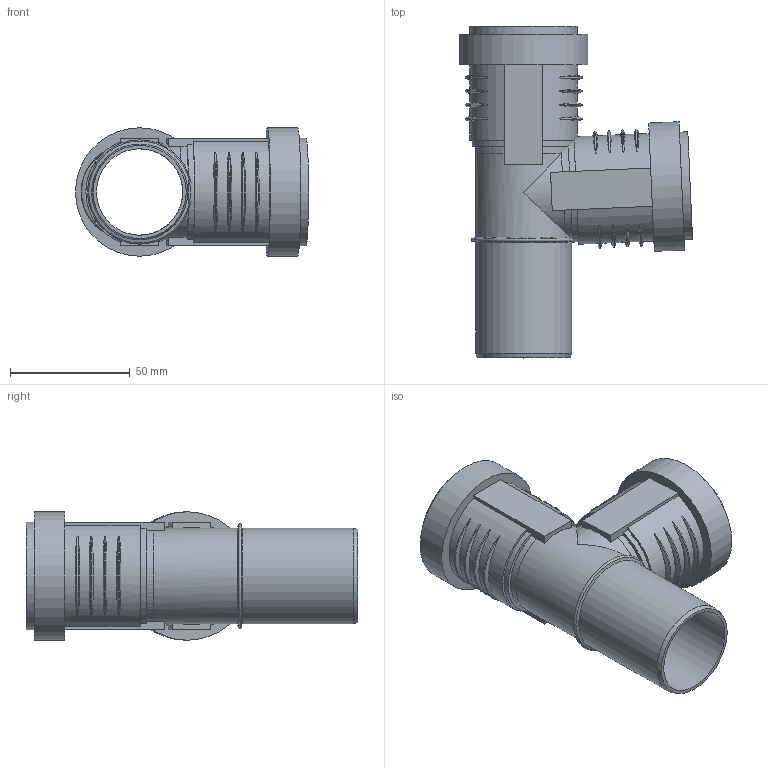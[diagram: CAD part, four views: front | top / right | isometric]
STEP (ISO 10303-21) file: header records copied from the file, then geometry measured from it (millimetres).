
FILE_DESCRIPTION(/* description */ (''),/* implementation_level */ '2;1');
FILE_NAME(/* name */ 'Z:\Geberit\Export\NewStep\390147.stp',/* time_stamp */ '2014-04-02T08:09:14+02:00',/* author */ ('ML'),/* organization */ (''),/* preprocessor_version */ 'ST-DEVELOPER v15.2',/* originating_system */ 'Autodesk Inventor 2014',/* authorisation */ '');
FILE_SCHEMA (('AUTOMOTIVE_DESIGN { 1 0 10303 214 3 1 1 }'));
Length unit declared in the file: millimetre
Products named in the file (4): 861350; 861400; 861400_1; 390147
Bounding box: 97.48 x 138.8 x 53.7 mm (x, y, z)
Volume: 59905.2 mm3; surface area: 60524 mm2
Topology: 3 solids, 3 shells, 129 faces, 326 edges, 227 vertices
Faces by surface type: torus 49, plane 38, cylinder 34, cone 7, bspline 1
Full cylindrical faces by diameter (mm): 36.15 x4, 40.15 x3, 41 x4, 45 x2, 49.7 x2, 53.7 x2
Entity records: 5085 total; most frequent: CARTESIAN_POINT 1977, ORIENTED_EDGE 588, DIRECTION 573, EDGE_CURVE 294, AXIS2_PLACEMENT_3D 250, VERTEX_POINT 219, EDGE_LOOP 185, ADVANCED_FACE 129
